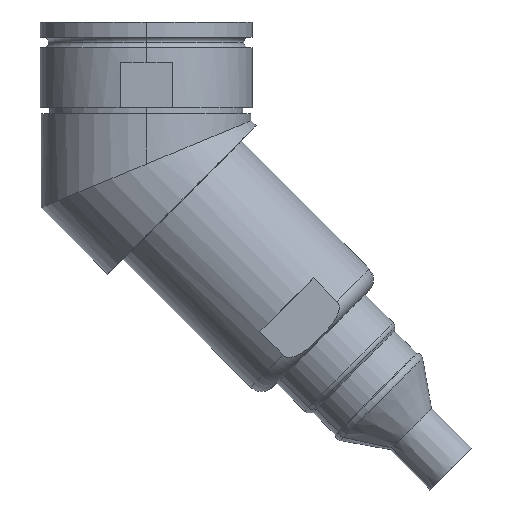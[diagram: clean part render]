
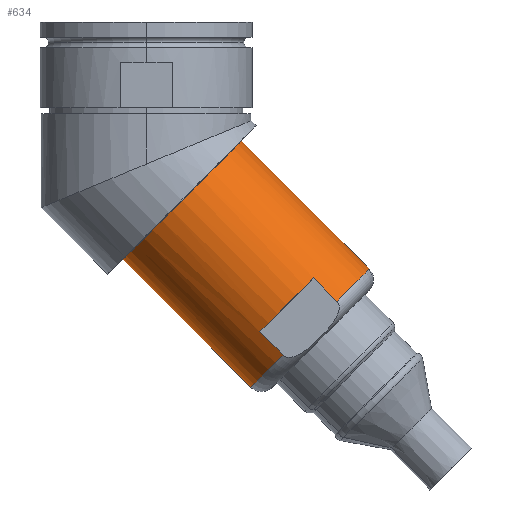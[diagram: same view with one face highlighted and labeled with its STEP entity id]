
A CAD part, left-side view. The second image highlights one B-rep face of the part: STEP entity #634.
In plain terms, the highlighted cylindrical face has radius 17.691 mm (diameter 35.382 mm), a partial arc.
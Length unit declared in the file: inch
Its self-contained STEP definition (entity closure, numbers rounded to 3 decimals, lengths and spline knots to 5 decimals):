
#56 = DIRECTION ( 'NONE',  ( 0., -0.707, 0.707 ) ) ;
#249 = CARTESIAN_POINT ( 'NONE',  ( 0., -1.366, -2.32782 ) ) ;
#465 = CARTESIAN_POINT ( 'NONE',  ( 0., -0.7943, -0.77112 ) ) ;
#634 = ADVANCED_FACE ( 'NONE', ( #1428 ), #4469, .T. ) ;
#662 = DIRECTION ( 'NONE',  ( 0., 0.707, 0.707 ) ) ;
#672 = VECTOR ( 'NONE', #6412, 39.37008 ) ;
#759 = ORIENTED_EDGE ( 'NONE', *, *, #9598, .T. ) ;
#763 = VERTEX_POINT ( 'NONE', #3954 ) ;
#820 = VERTEX_POINT ( 'NONE', #5008 ) ;
#976 = DIRECTION ( 'NONE',  ( 0., -0.707, -0.707 ) ) ;
#1169 = DIRECTION ( 'NONE',  ( 0., -0.707, -0.707 ) ) ;
#1248 = ORIENTED_EDGE ( 'NONE', *, *, #7923, .F. ) ;
#1428 = FACE_OUTER_BOUND ( 'NONE', #2642, .T. ) ;
#1452 = DIRECTION ( 'NONE',  ( 0., 0.707, 0.707 ) ) ;
#1461 = DIRECTION ( 'NONE',  ( 0., -0.707, -0.707 ) ) ;
#1494 = CARTESIAN_POINT ( 'NONE',  ( 0., 0.1907, -1.75612 ) ) ;
#1706 = CARTESIAN_POINT ( 'NONE',  ( 0., -0.7943, -0.77112 ) ) ;
#1797 = VERTEX_POINT ( 'NONE', #5030 ) ;
#1822 = AXIS2_PLACEMENT_3D ( 'NONE', #2829, #7287, #9630 ) ;
#1869 = VERTEX_POINT ( 'NONE', #465 ) ;
#1913 = DIRECTION ( 'NONE',  ( 0., -0.707, 0.707 ) ) ;
#1956 = VERTEX_POINT ( 'NONE', #6844 ) ;
#2307 = CARTESIAN_POINT ( 'NONE',  ( -0.62, -0.94714, -2.35776 ) ) ;
#2338 = CARTESIAN_POINT ( 'NONE',  ( 0., -1.8585, -1.83532 ) ) ;
#2642 = EDGE_LOOP ( 'NONE', ( #6963, #7544, #3387, #8212, #8320, #5591, #759, #1248 ) ) ;
#2650 = DIRECTION ( 'NONE',  ( 0., 0.707, 0.707 ) ) ;
#2829 = CARTESIAN_POINT ( 'NONE',  ( 0., -1.366, -2.32782 ) ) ;
#3102 = CARTESIAN_POINT ( 'NONE',  ( 0., 0.1907, -1.75612 ) ) ;
#3230 = VECTOR ( 'NONE', #1461, 39.37008 ) ;
#3274 = EDGE_CURVE ( 'NONE', #1956, #1797, #6706, .T. ) ;
#3387 = ORIENTED_EDGE ( 'NONE', *, *, #9807, .F. ) ;
#3464 = LINE ( 'NONE', #9478, #3819 ) ;
#3584 = CIRCLE ( 'NONE', #5983, 0.6965 ) ;
#3819 = VECTOR ( 'NONE', #976, 39.37008 ) ;
#3866 = DIRECTION ( 'NONE',  ( 0., 0.707, 0.707 ) ) ;
#3954 = CARTESIAN_POINT ( 'NONE',  ( -0.62, -1.5904, -2.10341 ) ) ;
#4384 = EDGE_CURVE ( 'NONE', #4405, #820, #7980, .T. ) ;
#4405 = VERTEX_POINT ( 'NONE', #7136 ) ;
#4451 = EDGE_CURVE ( 'NONE', #4405, #763, #3464, .T. ) ;
#4469 = CYLINDRICAL_SURFACE ( 'NONE', #9081, 0.6965 ) ;
#4517 = DIRECTION ( 'NONE',  ( 0., -0.707, 0.707 ) ) ;
#4968 = DIRECTION ( 'NONE',  ( 0., -0.707, 0.707 ) ) ;
#5008 = CARTESIAN_POINT ( 'NONE',  ( -0.62, -0.94714, -2.35776 ) ) ;
#5030 = CARTESIAN_POINT ( 'NONE',  ( -0.62, -1.1416, -2.55222 ) ) ;
#5502 = LINE ( 'NONE', #1706, #672 ) ;
#5591 = ORIENTED_EDGE ( 'NONE', *, *, #6918, .T. ) ;
#5983 = AXIS2_PLACEMENT_3D ( 'NONE', #8770, #2650, #1913 ) ;
#6240 = VERTEX_POINT ( 'NONE', #3102 ) ;
#6412 = DIRECTION ( 'NONE',  ( 0., 0.707, 0.707 ) ) ;
#6669 = EDGE_CURVE ( 'NONE', #1956, #6240, #8317, .T. ) ;
#6706 = CIRCLE ( 'NONE', #8304, 0.6965 ) ;
#6844 = CARTESIAN_POINT ( 'NONE',  ( 0., -0.8735, -2.82032 ) ) ;
#6918 = EDGE_CURVE ( 'NONE', #763, #7983, #9328, .T. ) ;
#6963 = ORIENTED_EDGE ( 'NONE', *, *, #6669, .F. ) ;
#7136 = CARTESIAN_POINT ( 'NONE',  ( -0.62, -1.39595, -1.90896 ) ) ;
#7287 = DIRECTION ( 'NONE',  ( 0., 0.707, 0.707 ) ) ;
#7516 = AXIS2_PLACEMENT_3D ( 'NONE', #9383, #1169, #4968 ) ;
#7539 = CARTESIAN_POINT ( 'NONE',  ( 0., -0.3018, -1.26362 ) ) ;
#7544 = ORIENTED_EDGE ( 'NONE', *, *, #3274, .T. ) ;
#7572 = LINE ( 'NONE', #2307, #3230 ) ;
#7923 = EDGE_CURVE ( 'NONE', #6240, #1869, #3584, .T. ) ;
#7980 = CIRCLE ( 'NONE', #7516, 0.6965 ) ;
#7983 = VERTEX_POINT ( 'NONE', #2338 ) ;
#8212 = ORIENTED_EDGE ( 'NONE', *, *, #4384, .F. ) ;
#8304 = AXIS2_PLACEMENT_3D ( 'NONE', #249, #3866, #56 ) ;
#8317 = LINE ( 'NONE', #1494, #9489 ) ;
#8320 = ORIENTED_EDGE ( 'NONE', *, *, #4451, .T. ) ;
#8770 = CARTESIAN_POINT ( 'NONE',  ( 0., -0.3018, -1.26362 ) ) ;
#9081 = AXIS2_PLACEMENT_3D ( 'NONE', #7539, #662, #4517 ) ;
#9328 = CIRCLE ( 'NONE', #1822, 0.6965 ) ;
#9383 = CARTESIAN_POINT ( 'NONE',  ( 0., -1.17155, -2.13336 ) ) ;
#9478 = CARTESIAN_POINT ( 'NONE',  ( -0.62, -1.39595, -1.90896 ) ) ;
#9489 = VECTOR ( 'NONE', #1452, 39.37008 ) ;
#9598 = EDGE_CURVE ( 'NONE', #7983, #1869, #5502, .T. ) ;
#9630 = DIRECTION ( 'NONE',  ( 0., -0.707, 0.707 ) ) ;
#9807 = EDGE_CURVE ( 'NONE', #820, #1797, #7572, .T. ) ;
